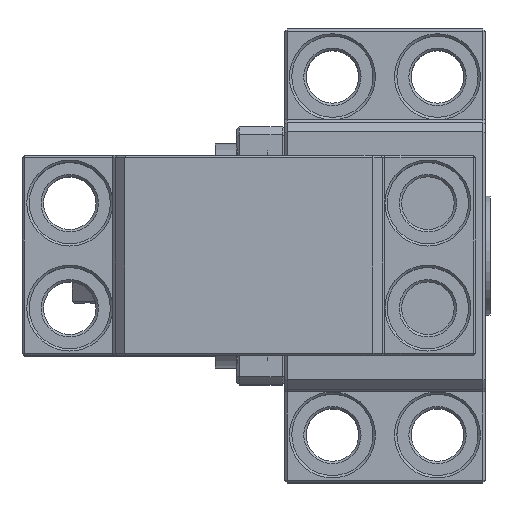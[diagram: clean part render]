
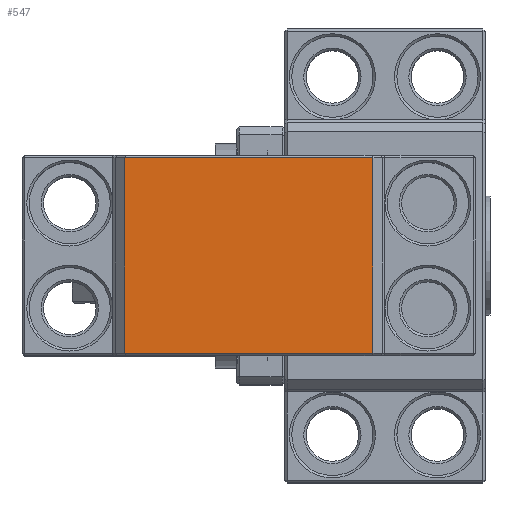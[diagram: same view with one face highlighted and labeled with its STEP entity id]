
A CAD part, top view. The second image highlights one B-rep face of the part: STEP entity #547.
In plain terms, the highlighted planar face has unit normal (0, 0, 1).
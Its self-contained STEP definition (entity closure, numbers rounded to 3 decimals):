
#547 = ADVANCED_FACE( '', ( #876 ), #877, .T. );
#876 = FACE_OUTER_BOUND( '', #1428, .T. );
#877 = PLANE( '', #1429 );
#1428 = EDGE_LOOP( '', ( #2231, #2232, #2233, #2234 ) );
#1429 = AXIS2_PLACEMENT_3D( '', #2235, #2236, #2237 );
#2231 = ORIENTED_EDGE( '', *, *, #3211, .T. );
#2232 = ORIENTED_EDGE( '', *, *, #3212, .T. );
#2233 = ORIENTED_EDGE( '', *, *, #3213, .T. );
#2234 = ORIENTED_EDGE( '', *, *, #3214, .T. );
#2235 = CARTESIAN_POINT( '', ( 0., -21., 58. ) );
#2236 = DIRECTION( '', ( 0., 0., 1. ) );
#2237 = DIRECTION( '', ( 1., 0., 0. ) );
#3211 = EDGE_CURVE( '', #3694, #3695, #3696, .T. );
#3212 = EDGE_CURVE( '', #3695, #3697, #3698, .T. );
#3213 = EDGE_CURVE( '', #3697, #3699, #3700, .T. );
#3214 = EDGE_CURVE( '', #3699, #3694, #3701, .T. );
#3694 = VERTEX_POINT( '', #4521 );
#3695 = VERTEX_POINT( '', #4522 );
#3696 = LINE( '', #4523, #4524 );
#3697 = VERTEX_POINT( '', #4525 );
#3698 = LINE( '', #4526, #4527 );
#3699 = VERTEX_POINT( '', #4528 );
#3700 = LINE( '', #4529, #4530 );
#3701 = LINE( '', #4531, #4532 );
#4521 = CARTESIAN_POINT( '', ( 26., -20.5, 58. ) );
#4522 = CARTESIAN_POINT( '', ( 26., 20.5, 58. ) );
#4523 = CARTESIAN_POINT( '', ( 26., -21., 58. ) );
#4524 = VECTOR( '', #5223, 1000. );
#4525 = CARTESIAN_POINT( '', ( -26., 20.5, 58. ) );
#4526 = CARTESIAN_POINT( '', ( 0., 20.5, 58. ) );
#4527 = VECTOR( '', #5224, 1000. );
#4528 = CARTESIAN_POINT( '', ( -26., -20.5, 58. ) );
#4529 = CARTESIAN_POINT( '', ( -26., -21., 58. ) );
#4530 = VECTOR( '', #5225, 1000. );
#4531 = CARTESIAN_POINT( '', ( 26., -20.5, 58. ) );
#4532 = VECTOR( '', #5226, 1000. );
#5223 = DIRECTION( '', ( 0., 1., 0. ) );
#5224 = DIRECTION( '', ( -1., 0., 0. ) );
#5225 = DIRECTION( '', ( 0., -1., 0. ) );
#5226 = DIRECTION( '', ( 1., 0., 0. ) );
